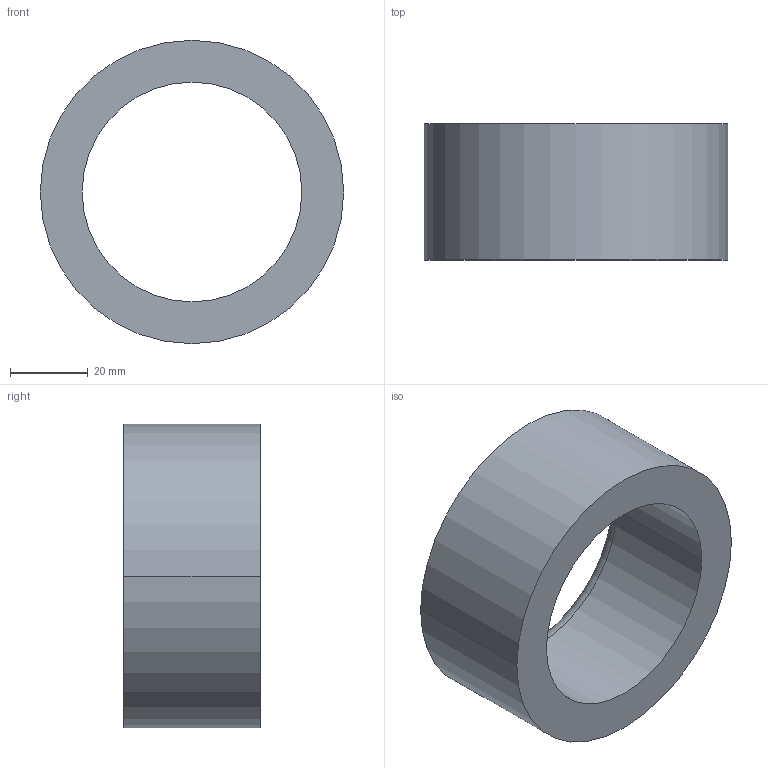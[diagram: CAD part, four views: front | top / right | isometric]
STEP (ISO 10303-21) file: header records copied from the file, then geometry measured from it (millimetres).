
FILE_DESCRIPTION (( 'STEP AP203' ), '1' );
FILE_NAME ('30800.WPP78M56.5.step', '2019-01-23T23:02:18', ( '' ), ( '' ), 'SwSTEP 2.0', 'SolidWorks 2017', '' );
FILE_SCHEMA (( 'CONFIG_CONTROL_DESIGN' ));
Length unit declared in the file: millimetre
Products named in the file (1): 30800.WPP78M56.5
Bounding box: 78 x 35 x 78 mm (x, y, z)
Volume: 78862.4 mm3; surface area: 19033.8 mm2
Topology: 1 solids, 1 shells, 8 faces, 16 edges, 10 vertices
Faces by surface type: cylinder 4, torus 2, plane 2
Entity records: 297 total; most frequent: DIRECTION 46, CARTESIAN_POINT 35, ORIENTED_EDGE 32, AXIS2_PLACEMENT_3D 21, EDGE_CURVE 16, CIRCLE 12, EDGE_LOOP 10, VERTEX_POINT 10
